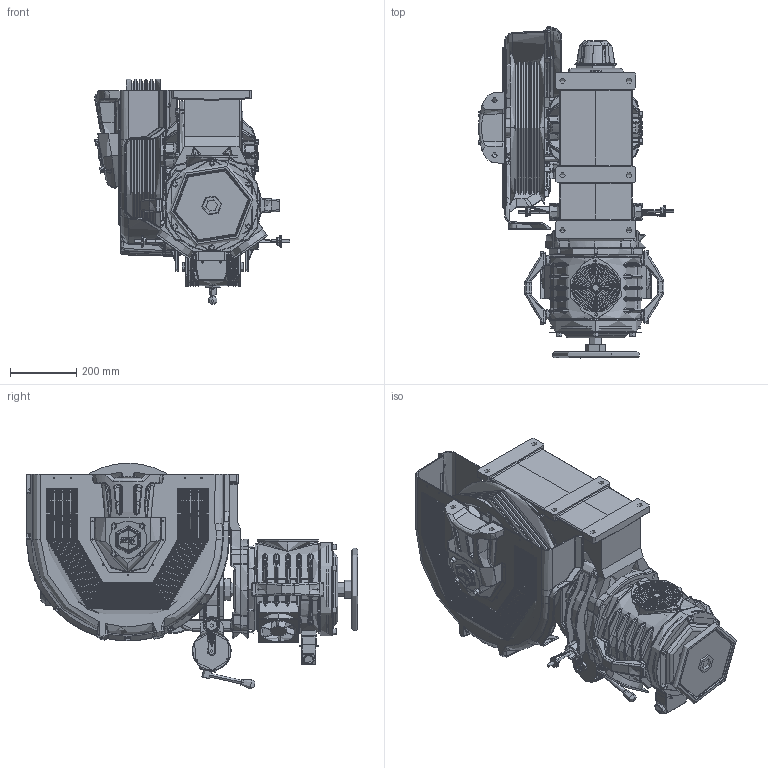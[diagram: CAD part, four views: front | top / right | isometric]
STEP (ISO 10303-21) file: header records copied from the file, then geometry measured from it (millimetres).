
FILE_DESCRIPTION (( 'STEP AP214' ), '1' );
FILE_NAME ('ST55080.STEP', '2026-01-19T13:11:38', ( '' ), ( '' ), 'SwSTEP 2.0', 'SolidWorks 2023', '' );
FILE_SCHEMA (( 'AUTOMOTIVE_DESIGN' ));
Length unit declared in the file: millimetre
Products named in the file (1): ST55080
Bounding box: 586.99 x 998.18 x 679.18 mm (x, y, z)
Topology: 90 solids, 98 shells, 9253 faces, 22648 edges, 13485 vertices
Faces by surface type: cylinder 2657, plane 2617, bspline 2100, torus 893, cone 624, sphere 362
Full cylindrical faces by diameter (mm): 20 x3
Entity records: 360810 total; most frequent: CARTESIAN_POINT 157163, ORIENTED_EDGE 44998, DIRECTION 39645, EDGE_CURVE 22499, AXIS2_PLACEMENT_3D 15981, VERTEX_POINT 13449, EDGE_LOOP 10044, ADVANCED_FACE 9251
